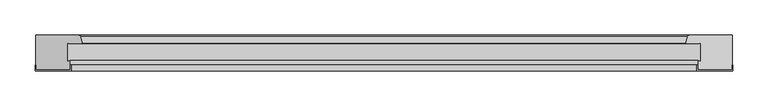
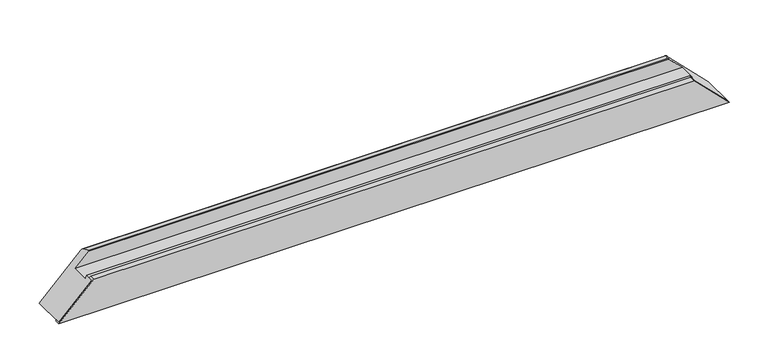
"""IFC4 building model written with IfcOpenShell, lengths in millimetres: proxy geometry, Weiku - Montante - Caixilho 02.2.01.005 : Weiku - Montante - Caixilho 02.2.01.005."""

from ifc_helpers import new_model, si_unit, frame, origin, place, context, project, spatial, ellipse_curve, faceted_brep, source, transform, mapped, element, save
from ifc_brep_helpers import plane_surface, cylinder_surface, advanced_brep


def generic_models_7b47744d(model_context):
    return source(origin(), model_context, "Body", "SolidModel", [
        faceted_brep([(-497.5, -43.5137905, 0.0), (-498.5, -43.5137905, -1.0), (-498.5, -52.0, -1.0), (-446.5, -52.0, 51.0), (-446.5, -43.5137905, 51.0), (-448.5, -43.5137905, 49.0), (-448.5, -50.0, 49.0), (-497.5, -50.0, 0.0), (497.5, -50.0, 0.0), (448.5, -50.0, 49.0), (448.5, -43.5137905, 49.0), (446.5, -43.5137905, 51.0), (446.5, -52.0, 51.0), (498.5, -52.0, -1.0), (498.5, -43.5137905, -1.0), (497.5, -43.5137905, 0.0)], [[[0, 1, 2, 3, 4, 5, 6, 7]], [[8, 9, 10, 11, 12, 13, 14, 15]], [[7, 8, 15, 0]], [[6, 9, 8, 7]], [[5, 10, 9, 6]], [[4, 11, 10, 5]], [[3, 12, 11, 4]], [[2, 13, 12, 3]], [[1, 14, 13, 2]], [[0, 15, 14, 1]]]),
        advanced_brep(
        [(-451.5, -12.5, 46.0), (451.5, -12.5, 46.0), (431.3909676, -12.5, 66.1090324), (-431.3909676, -12.5, 66.1090324), (-451.5, -37.8314286, 46.0), (451.5, -37.8314286, 46.0), (-448.5, -37.027581, 49.0), (448.5, -37.027581, 49.0), (-448.5, -50.0, 49.0), (448.5, -50.0, 49.0), (497.5, -50.0, 0.0), (-497.5, -50.0, 0.0), (-497.5, 0.0, 0.0), (497.5, 0.0, 0.0), (-435.9997332, 0.0, 61.5002668), (435.9997332, 0.0, 61.5002668), (-430.618227, -11.4929448, 66.881773), (430.618227, -11.4929448, 66.881773), (433.1019557, -2.2235429, 64.3980443), (-433.1019557, -2.2235429, 64.3980443)],
        [
            (0, 1),
            (1, 2),
            (2, 3),
            (3, 0),
            (4, 5),
            (5, 1),
            (0, 4),
            (6, 7),
            (7, 5),
            (4, 6),
            (8, 9),
            (9, 7),
            (6, 8),
            (10, 9),
            (8, 11),
            (11, 10),
            (11, 12),
            (12, 13),
            (13, 10),
            (12, 14),
            (14, 15),
            (15, 13),
            (16, 17),
            (17, 18),
            (18, 19),
            (19, 16),
            (3, 16, ellipse_curve(frame((-431.3909676, -11.7, 66.1090324), z_axis=(-0.707106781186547, 0.0, 0.707106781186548), x_axis=(-0.7071067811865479, 0.0, -0.707106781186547)), 1.1313708, 0.8)),
            (19, 14, ellipse_curve(frame((-435.9997332, -3.0, 61.5002668), z_axis=(-0.707106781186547, 0.0, 0.707106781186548), x_axis=(-0.7071067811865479, 0.0, -0.707106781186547)), 4.2426407, 3.0)),
            (15, 18, ellipse_curve(frame((435.9997332, -3.0, 61.5002668), z_axis=(0.707106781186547, 0.0, 0.7071067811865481), x_axis=(-0.7071067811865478, 0.0, 0.707106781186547)), 4.2426407, 3.0)),
            (17, 2, ellipse_curve(frame((431.3909676, -11.7, 66.1090324), z_axis=(0.707106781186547, 0.0, 0.7071067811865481), x_axis=(-0.7071067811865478, 0.0, 0.707106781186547)), 1.1313708, 0.8)),
        ],
        [
            plane_surface(frame((-497.5, -12.5, 66.1090324), z_axis=(0.0, -1.0, 0.0), x_axis=(1.0, 0.0, 0.0))),
            plane_surface(frame((-497.5, -12.5, 46.0), z_axis=(0.0, 0.0, 1.0), x_axis=(1.0, 0.0, 0.0))),
            plane_surface(frame((-497.5, -37.8314286, 46.0), z_axis=(0.0, 0.9659258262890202, -0.2588190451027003), x_axis=(1.0, 0.0, 0.0))),
            plane_surface(frame((-497.5, -37.027581, 49.0), z_axis=(0.0, 0.0, 1.0), x_axis=(1.0, 0.0, 0.0))),
            plane_surface(frame((-497.5, -50.0, 49.0), z_axis=(0.0, -1.0, 0.0), x_axis=(1.0, 0.0, 0.0))),
            plane_surface(frame((-497.5, -50.0, 0.0), z_axis=(0.0, 0.0, -1.0), x_axis=(1.0, 0.0, 0.0))),
            plane_surface(frame((-497.5, 0.0, 0.0), z_axis=(0.0, 1.0, 0.0), x_axis=(1.0, 0.0, 0.0))),
            plane_surface(frame((-497.5, -2.2235429, 64.3980443), z_axis=(0.0, 0.2588190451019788, 0.9659258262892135), x_axis=(1.0, 0.0, 0.0))),
            plane_surface(frame((-567.5, 15.0, -70.0), z_axis=(-0.707106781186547, 0.0, 0.707106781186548), x_axis=(0.0, -1.0, 0.0))),
            plane_surface(frame((427.5, 15.0, 70.0), z_axis=(0.707106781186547, 0.0, 0.7071067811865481), x_axis=(0.0, -1.0, 0.0))),
            cylinder_surface(frame((-497.5, -11.7, 66.1090324), z_axis=(-1.0, 0.0, 0.0), x_axis=(0.0, -1.0, 0.0)), 0.8),
            cylinder_surface(frame((-497.5, -3.0, 61.5002668), z_axis=(-1.0, 0.0, 0.0), x_axis=(0.0, -1.0, 0.0)), 3.0),
        ],
        [
            (0, [[1, 2, 3, 4]]),
            (1, [[5, 6, -1, 7]]),
            (2, [[8, 9, -5, 10]]),
            (3, [[11, 12, -8, 13]]),
            (4, [[14, -11, 15, 16]]),
            (5, [[17, 18, 19, -16]]),
            (6, [[20, 21, 22, -18]]),
            (7, [[23, 24, 25, 26]]),
            (8, [[27, -26, 28, -20, -17, -15, -13, -10, -7, -4]]),
            (9, [[-6, -9, -12, -14, -19, -22, 29, -24, 30, -2]]),
            (10, [[-3, -30, -23, -27]]),
            (11, [[-25, -29, -21, -28]]),
        ],
    ),
    ])


if __name__ == "__main__":
    model = new_model("IFC4")
    model_context = context("Model", 3, world=origin())
    ifc_project = project(units=[si_unit("LENGTHUNIT", "METRE", prefix="MILLI")], contexts=[model_context])
    site = spatial("IfcSite", under=ifc_project)
    building = spatial("IfcBuilding", under=site)
    placement = place(None, origin())
    generic_models_shape = generic_models_7b47744d(model_context)
    element("IfcBuildingElementProxy", 1, Name="Weiku - Montante - Caixilho 02.2.01.005 : Weiku - Montante - Caixilho 02.2.01.005", ObjectType="Weiku - Montante - Caixilho 02.2.01.005 : Weiku - Montante - Caixilho 02.2.01.005", at=placement, inside=building, context=model_context, shape_type="MappedRepresentation", body=[
        mapped(generic_models_shape, transform((0.0, 0.0, 0.0), x_axis=(1.0, 0.0, 0.0), y_axis=(0.0, 1.0, 0.0), z_axis=(0.0, 0.0, 1.0))),
    ])
    save(model, "model.ifc")
